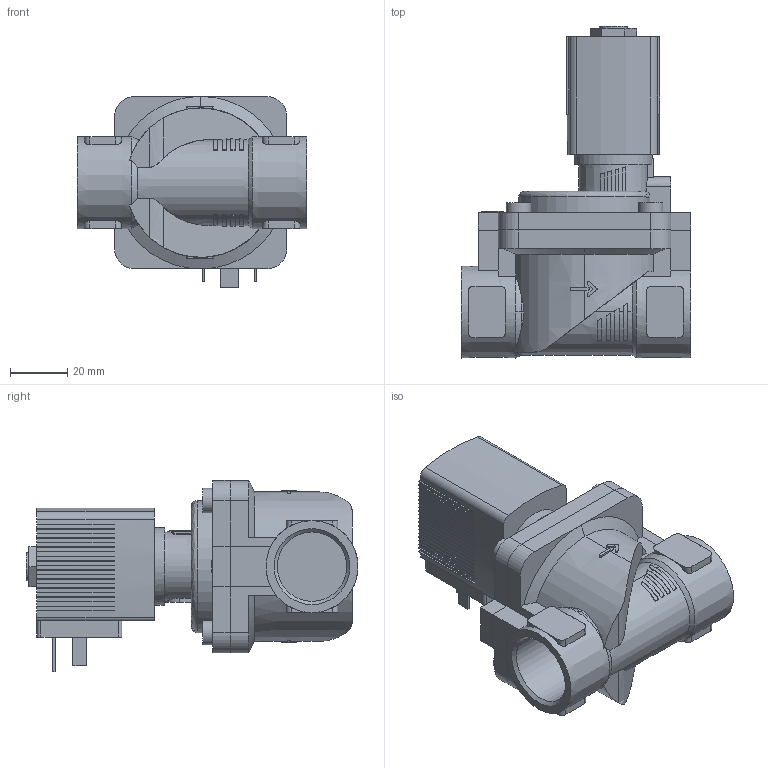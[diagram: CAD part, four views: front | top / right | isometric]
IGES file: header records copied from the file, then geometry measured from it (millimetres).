
Start section: Data from Parasolid IGES Translator 26.0.171, Copyright(c) 2006 Siemens PLM Software. All Rights Reserved.
Global section: file name: 6281-309438-2_2-Way_Solenoid_Valve__Servo-assisted__General_Purpose.igs; native system: By Siemens PLM Incorporated; preprocessor: XPlus GENERIC/IGES 26.0.171; author: Noname; organization: Noname; date: 20240605.211213; units: millimetre
Bounding box: 80 x 115.5 x 66.5 mm (x, y, z)
Surface area: 43096.2 mm2 (no closed solid volume)
Topology: 0 solids, 0 shells, 551 faces, 3082 edges, 3076 vertices
Faces by surface type: extrusion 428, revolution 123
